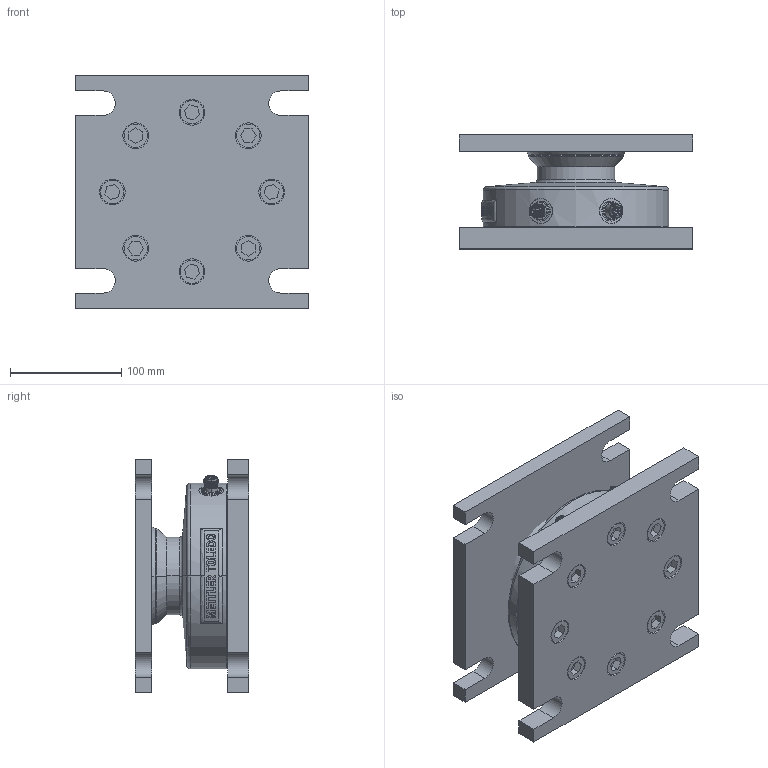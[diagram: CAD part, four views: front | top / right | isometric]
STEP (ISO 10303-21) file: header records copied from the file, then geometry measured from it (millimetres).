
FILE_DESCRIPTION((''),'2;1');
FILE_NAME('SLL210_10T_PLATE','2024-07-10T21:39:36',('wang-722'),(''),'CREO PARAMETRIC BY PTC INC, 2022014','CREO PARAMETRIC BY PTC INC, 2022014','');
FILE_SCHEMA(('CONFIG_CONTROL_DESIGN'));
Length unit declared in the file: millimetre
Products named in the file (1): SLL210_10T_PLATE
Bounding box: 210 x 102.6 x 210 mm (x, y, z)
Surface area: 277185.1 mm2 (no closed solid volume)
Topology: 0 solids, 30 shells, 380 faces, 1154 edges, 829 vertices
Faces by surface type: cylinder 146, plane 144, cone 49, bspline 21, torus 19, sphere 1
Entity records: 16611 total; most frequent: CARTESIAN_POINT 6014, DIRECTION 2281, ORIENTED_EDGE 2063, EDGE_CURVE 1151, AXIS2_PLACEMENT_3D 891, VERTEX_POINT 829, CIRCLE 532, VECTOR 499
